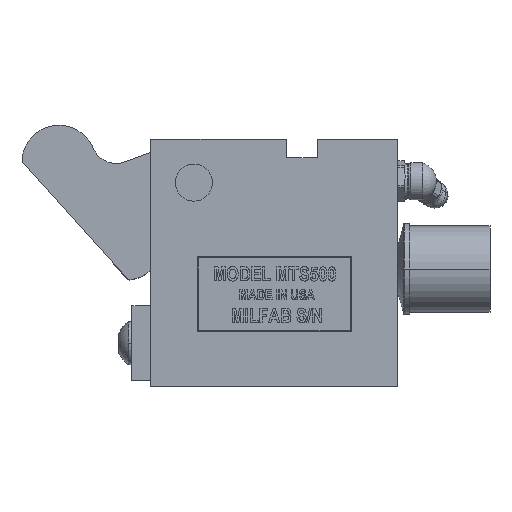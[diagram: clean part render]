
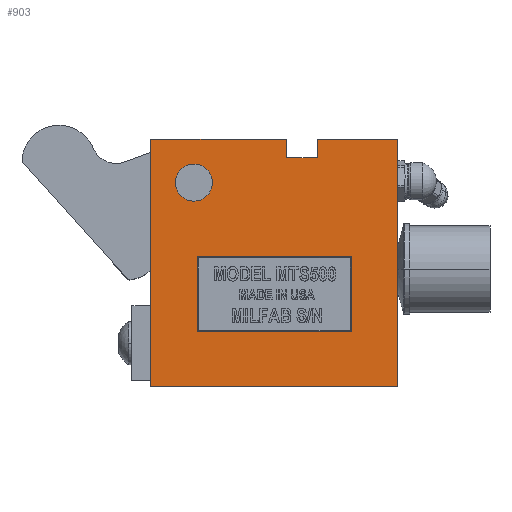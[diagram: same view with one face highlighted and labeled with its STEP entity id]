
A CAD part, top view. The second image highlights one B-rep face of the part: STEP entity #903.
In plain terms, the highlighted planar face has unit normal (0, 0, 1).
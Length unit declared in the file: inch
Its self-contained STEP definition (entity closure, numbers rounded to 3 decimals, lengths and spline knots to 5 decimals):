
#238 = VERTEX_POINT ( 'NONE', #16347 ) ;
#242 = EDGE_CURVE ( 'NONE', #238, #23694, #16342, .T. ) ;
#882 = ORIENTED_EDGE ( 'NONE', *, *, #11615, .T. ) ;
#883 = ORIENTED_EDGE ( 'NONE', *, *, #23400, .T. ) ;
#884 = ORIENTED_EDGE ( 'NONE', *, *, #949, .F. ) ;
#885 = EDGE_LOOP ( 'NONE', ( #884, #953 ) ) ;
#886 = ORIENTED_EDGE ( 'NONE', *, *, #11614, .T. ) ;
#887 = ORIENTED_EDGE ( 'NONE', *, *, #23673, .T. ) ;
#888 = ORIENTED_EDGE ( 'NONE', *, *, #11613, .T. ) ;
#889 = ORIENTED_EDGE ( 'NONE', *, *, #905, .T. ) ;
#890 = ORIENTED_EDGE ( 'NONE', *, *, #242, .T. ) ;
#903 = ADVANCED_FACE ( 'NONE', ( #16956, #16955, #16954 ), #16960, .F. ) ;
#904 = EDGE_LOOP ( 'NONE', ( #907, #911, #914, #951 ) ) ;
#905 = EDGE_CURVE ( 'NONE', #11422, #238, #16949, .T. ) ;
#907 = ORIENTED_EDGE ( 'NONE', *, *, #908, .F. ) ;
#908 = EDGE_CURVE ( 'NONE', #909, #910, #17004, .T. ) ;
#909 = VERTEX_POINT ( 'NONE', #17000 ) ;
#910 = VERTEX_POINT ( 'NONE', #16999 ) ;
#911 = ORIENTED_EDGE ( 'NONE', *, *, #912, .F. ) ;
#912 = EDGE_CURVE ( 'NONE', #913, #909, #16998, .T. ) ;
#913 = VERTEX_POINT ( 'NONE', #16994 ) ;
#914 = ORIENTED_EDGE ( 'NONE', *, *, #956, .F. ) ;
#949 = EDGE_CURVE ( 'NONE', #23370, #23424, #17074, .T. ) ;
#950 = EDGE_CURVE ( 'NONE', #910, #955, #17064, .T. ) ;
#951 = ORIENTED_EDGE ( 'NONE', *, *, #950, .F. ) ;
#953 = ORIENTED_EDGE ( 'NONE', *, *, #23407, .F. ) ;
#954 = EDGE_LOOP ( 'NONE', ( #957, #889, #890, #887, #888, #886, #882, #883 ) ) ;
#955 = VERTEX_POINT ( 'NONE', #17060 ) ;
#956 = EDGE_CURVE ( 'NONE', #955, #913, #17059, .T. ) ;
#957 = ORIENTED_EDGE ( 'NONE', *, *, #11421, .T. ) ;
#4396 = CARTESIAN_POINT ( 'NONE',  ( 7.81451, 5.56404, 0. ) ) ;
#4454 = DIRECTION ( 'NONE',  ( 1., 0., 0. ) ) ;
#4455 = DIRECTION ( 'NONE',  ( 0., 0., 1. ) ) ;
#4456 = CARTESIAN_POINT ( 'NONE',  ( 7.62701, 5.56404, 0. ) ) ;
#4457 = AXIS2_PLACEMENT_3D ( 'NONE', #4456, #4455, #4454 ) ;
#4458 = CIRCLE ( 'NONE', #4457, 0.1875 ) ;
#4465 = CARTESIAN_POINT ( 'NONE',  ( 8.56451, 6.00404, 0. ) ) ;
#4466 = DIRECTION ( 'NONE',  ( -1., 0., 0. ) ) ;
#4467 = VECTOR ( 'NONE', #4466, 39.37008 ) ;
#4468 = CARTESIAN_POINT ( 'NONE',  ( 7.18951, 6.00404, 0. ) ) ;
#4469 = LINE ( 'NONE', #4468, #4467 ) ;
#4470 = CARTESIAN_POINT ( 'NONE',  ( 7.18951, 6.00404, 0. ) ) ;
#4555 = CARTESIAN_POINT ( 'NONE',  ( 7.43951, 5.56404, 0. ) ) ;
#5510 = CARTESIAN_POINT ( 'NONE',  ( 8.87651, 6.00404, 0. ) ) ;
#5511 = DIRECTION ( 'NONE',  ( -1., 0., 0. ) ) ;
#5512 = VECTOR ( 'NONE', #5511, 39.37008 ) ;
#5513 = CARTESIAN_POINT ( 'NONE',  ( 8.87651, 6.00404, 0. ) ) ;
#5514 = LINE ( 'NONE', #5513, #5512 ) ;
#5557 = CARTESIAN_POINT ( 'NONE',  ( 9.68951, 6.00404, 0. ) ) ;
#11421 = EDGE_CURVE ( 'NONE', #23398, #11422, #19022, .T. ) ;
#11422 = VERTEX_POINT ( 'NONE', #19018 ) ;
#11604 = VERTEX_POINT ( 'NONE', #19326 ) ;
#11606 = VERTEX_POINT ( 'NONE', #19325 ) ;
#11613 = EDGE_CURVE ( 'NONE', #23674, #11604, #19376, .T. ) ;
#11614 = EDGE_CURVE ( 'NONE', #11604, #11606, #19372, .T. ) ;
#11615 = EDGE_CURVE ( 'NONE', #11606, #23401, #19368, .T. ) ;
#16339 = DIRECTION ( 'NONE',  ( 0., 1., 0. ) ) ;
#16340 = VECTOR ( 'NONE', #16339, 39.37008 ) ;
#16341 = CARTESIAN_POINT ( 'NONE',  ( 9.68951, 3.50404, 0. ) ) ;
#16342 = LINE ( 'NONE', #16341, #16340 ) ;
#16347 = CARTESIAN_POINT ( 'NONE',  ( 9.68951, 3.50404, 0. ) ) ;
#16949 = LINE ( 'NONE', #17011, #17010 ) ;
#16950 = DIRECTION ( 'NONE',  ( -1., 0., 0. ) ) ;
#16951 = DIRECTION ( 'NONE',  ( 0., 0., -1. ) ) ;
#16952 = CARTESIAN_POINT ( 'NONE',  ( 7.18951, 6.00404, 0. ) ) ;
#16953 = AXIS2_PLACEMENT_3D ( 'NONE', #16952, #16951, #16950 ) ;
#16954 = FACE_OUTER_BOUND ( 'NONE', #954, .T. ) ;
#16955 = FACE_BOUND ( 'NONE', #885, .T. ) ;
#16956 = FACE_BOUND ( 'NONE', #904, .T. ) ;
#16960 = PLANE ( 'NONE',  #16953 ) ;
#16994 = CARTESIAN_POINT ( 'NONE',  ( 7.65951, 4.81404, 0. ) ) ;
#16995 = DIRECTION ( 'NONE',  ( 0., -1., 0. ) ) ;
#16996 = VECTOR ( 'NONE', #16995, 39.37008 ) ;
#16997 = CARTESIAN_POINT ( 'NONE',  ( 7.65951, 4.05404, 0. ) ) ;
#16998 = LINE ( 'NONE', #16997, #16996 ) ;
#16999 = CARTESIAN_POINT ( 'NONE',  ( 9.21951, 4.05404, 0. ) ) ;
#17000 = CARTESIAN_POINT ( 'NONE',  ( 7.65951, 4.05404, 0. ) ) ;
#17001 = DIRECTION ( 'NONE',  ( 1., 0., 0. ) ) ;
#17002 = VECTOR ( 'NONE', #17001, 39.37008 ) ;
#17003 = CARTESIAN_POINT ( 'NONE',  ( 7.65951, 4.05404, 0. ) ) ;
#17004 = LINE ( 'NONE', #17003, #17002 ) ;
#17009 = DIRECTION ( 'NONE',  ( 1., 0., 0. ) ) ;
#17010 = VECTOR ( 'NONE', #17009, 39.37008 ) ;
#17011 = CARTESIAN_POINT ( 'NONE',  ( 7.18951, 3.50404, 0. ) ) ;
#17056 = DIRECTION ( 'NONE',  ( -1., 0., 0. ) ) ;
#17057 = VECTOR ( 'NONE', #17056, 39.37008 ) ;
#17058 = CARTESIAN_POINT ( 'NONE',  ( 7.65951, 4.81404, 0. ) ) ;
#17059 = LINE ( 'NONE', #17058, #17057 ) ;
#17060 = CARTESIAN_POINT ( 'NONE',  ( 9.21951, 4.81404, 0. ) ) ;
#17061 = DIRECTION ( 'NONE',  ( 0., 1., 0. ) ) ;
#17062 = VECTOR ( 'NONE', #17061, 39.37008 ) ;
#17063 = CARTESIAN_POINT ( 'NONE',  ( 9.21951, 4.05404, 0. ) ) ;
#17064 = LINE ( 'NONE', #17063, #17062 ) ;
#17065 = DIRECTION ( 'NONE',  ( 1., 0., 0. ) ) ;
#17066 = DIRECTION ( 'NONE',  ( 0., 0., 1. ) ) ;
#17067 = CARTESIAN_POINT ( 'NONE',  ( 7.62701, 5.56404, 0. ) ) ;
#17068 = AXIS2_PLACEMENT_3D ( 'NONE', #17067, #17066, #17065 ) ;
#17074 = CIRCLE ( 'NONE', #17068, 0.1875 ) ;
#19018 = CARTESIAN_POINT ( 'NONE',  ( 7.18951, 3.50404, 0. ) ) ;
#19019 = DIRECTION ( 'NONE',  ( 0., -1., 0. ) ) ;
#19020 = VECTOR ( 'NONE', #19019, 39.37008 ) ;
#19021 = CARTESIAN_POINT ( 'NONE',  ( 7.18951, 3.50404, 0. ) ) ;
#19022 = LINE ( 'NONE', #19021, #19020 ) ;
#19325 = CARTESIAN_POINT ( 'NONE',  ( 8.56451, 5.81404, 0. ) ) ;
#19326 = CARTESIAN_POINT ( 'NONE',  ( 8.87651, 5.81404, 0. ) ) ;
#19365 = DIRECTION ( 'NONE',  ( 0., 1., 0. ) ) ;
#19366 = VECTOR ( 'NONE', #19365, 39.37008 ) ;
#19367 = CARTESIAN_POINT ( 'NONE',  ( 8.56451, 6.00404, 0. ) ) ;
#19368 = LINE ( 'NONE', #19367, #19366 ) ;
#19369 = DIRECTION ( 'NONE',  ( -1., 0., 0. ) ) ;
#19370 = VECTOR ( 'NONE', #19369, 39.37008 ) ;
#19371 = CARTESIAN_POINT ( 'NONE',  ( 8.56451, 5.81404, 0. ) ) ;
#19372 = LINE ( 'NONE', #19371, #19370 ) ;
#19373 = DIRECTION ( 'NONE',  ( 0., -1., 0. ) ) ;
#19374 = VECTOR ( 'NONE', #19373, 39.37008 ) ;
#19375 = CARTESIAN_POINT ( 'NONE',  ( 8.87651, 5.81404, 0. ) ) ;
#19376 = LINE ( 'NONE', #19375, #19374 ) ;
#23370 = VERTEX_POINT ( 'NONE', #4396 ) ;
#23398 = VERTEX_POINT ( 'NONE', #4470 ) ;
#23400 = EDGE_CURVE ( 'NONE', #23401, #23398, #4469, .T. ) ;
#23401 = VERTEX_POINT ( 'NONE', #4465 ) ;
#23407 = EDGE_CURVE ( 'NONE', #23424, #23370, #4458, .T. ) ;
#23424 = VERTEX_POINT ( 'NONE', #4555 ) ;
#23673 = EDGE_CURVE ( 'NONE', #23694, #23674, #5514, .T. ) ;
#23674 = VERTEX_POINT ( 'NONE', #5510 ) ;
#23694 = VERTEX_POINT ( 'NONE', #5557 ) ;
